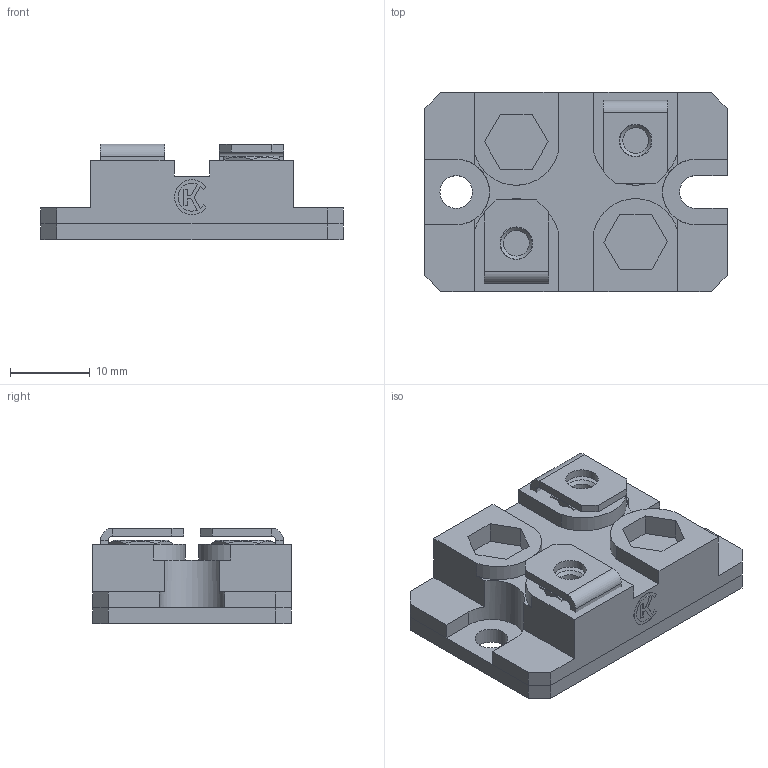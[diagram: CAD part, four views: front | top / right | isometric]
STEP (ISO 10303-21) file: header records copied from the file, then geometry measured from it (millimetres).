
FILE_DESCRIPTION(('STEP AP203'), '1');
FILE_NAME('Ð1-150Ì-100(200)-2', '', ('UNSPECIFIED'), ('UNSPECIFIED'), 'C3D Converter', 'C3D Toolkit', '');
FILE_SCHEMA(('CONFIG_CONTROL_DESIGN'));
Length unit declared in the file: millimetre
Assembly tree (6 placements, depth 2):
  (unnamed)
    (unnamed)
    (unnamed)  x2
    (unnamed)
    (unnamed)  x2
Bounding box: 38 x 25 x 12 mm (x, y, z)
Volume: 6796 mm3; surface area: 5894.2 mm2
Topology: 6 solids, 6 shells, 160 faces, 410 edges, 268 vertices
Faces by surface type: plane 132, cylinder 20, cone 8
Full cylindrical faces by diameter (mm): 3.242 x2, 4.1 x3
Entity records: 5790 total; most frequent: CARTESIAN_POINT 1244, ORIENTED_EDGE 666, DIRECTION 635, EDGE_CURVE 333, LINE 277, VECTOR 277, VERTEX_POINT 224, AXIS2_PLACEMENT_3D 179
